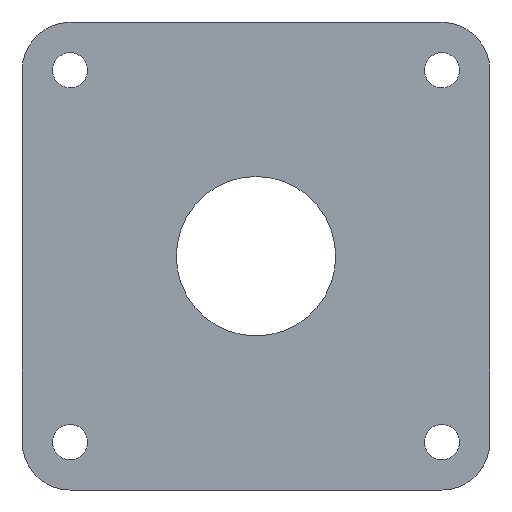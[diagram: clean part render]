
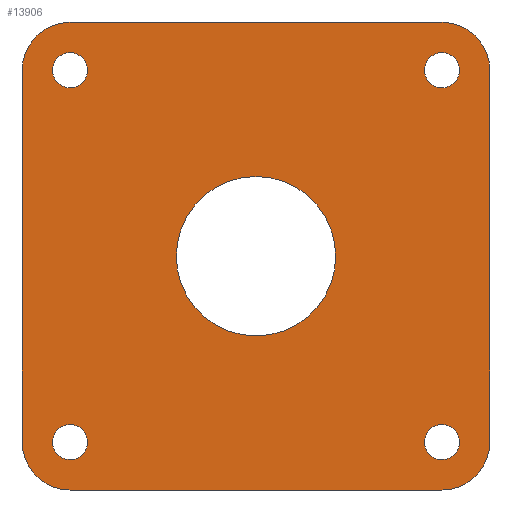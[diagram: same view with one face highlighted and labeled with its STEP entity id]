
A CAD part, left-side view. The second image highlights one B-rep face of the part: STEP entity #13906.
In plain terms, the highlighted planar face has unit normal (-1, 0, 0).
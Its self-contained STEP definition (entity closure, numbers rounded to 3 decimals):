
#12617=CARTESIAN_POINT('Line Origine',(-22.,0.,110.)) ;
#12621=CARTESIAN_POINT('Vertex',(-22.,87.5,110.)) ;
#12623=CARTESIAN_POINT('Vertex',(-22.,-87.5,110.)) ;
#13309=CARTESIAN_POINT('Axis2P3D Location',(-22.,87.5,87.5)) ;
#13313=CARTESIAN_POINT('Vertex',(-22.,110.,87.5)) ;
#13333=CARTESIAN_POINT('Axis2P3D Location',(-22.,-87.5,87.5)) ;
#13337=CARTESIAN_POINT('Vertex',(-22.,-110.,87.5)) ;
#13364=CARTESIAN_POINT('Line Origine',(-22.,-110.,0.)) ;
#13368=CARTESIAN_POINT('Vertex',(-22.,-110.,-87.5)) ;
#13422=CARTESIAN_POINT('Axis2P3D Location',(-22.,-87.5,-87.5)) ;
#13426=CARTESIAN_POINT('Vertex',(-22.,-87.5,-110.)) ;
#13446=CARTESIAN_POINT('Line Origine',(-22.,0.,-110.)) ;
#13450=CARTESIAN_POINT('Vertex',(-22.,87.5,-110.)) ;
#13474=CARTESIAN_POINT('Vertex',(-22.,-37.5,0.)) ;
#13477=CARTESIAN_POINT('Axis2P3D Location',(-22.,0.,0.)) ;
#13481=CARTESIAN_POINT('Vertex',(-22.,37.5,0.)) ;
#13496=CARTESIAN_POINT('Axis2P3D Location',(-22.,0.,0.)) ;
#13641=CARTESIAN_POINT('Vertex',(-22.,79.25,87.5)) ;
#13648=CARTESIAN_POINT('Vertex',(-22.,95.75,87.5)) ;
#13651=CARTESIAN_POINT('Axis2P3D Location',(-22.,87.5,87.5)) ;
#13663=CARTESIAN_POINT('Axis2P3D Location',(-22.,87.5,87.5)) ;
#13684=CARTESIAN_POINT('Vertex',(-22.,79.25,-87.5)) ;
#13691=CARTESIAN_POINT('Vertex',(-22.,95.75,-87.5)) ;
#13694=CARTESIAN_POINT('Axis2P3D Location',(-22.,87.5,-87.5)) ;
#13706=CARTESIAN_POINT('Axis2P3D Location',(-22.,87.5,-87.5)) ;
#13727=CARTESIAN_POINT('Vertex',(-22.,-79.25,-87.5)) ;
#13734=CARTESIAN_POINT('Vertex',(-22.,-95.75,-87.5)) ;
#13737=CARTESIAN_POINT('Axis2P3D Location',(-22.,-87.5,-87.5)) ;
#13749=CARTESIAN_POINT('Axis2P3D Location',(-22.,-87.5,-87.5)) ;
#13770=CARTESIAN_POINT('Vertex',(-22.,-79.25,87.5)) ;
#13777=CARTESIAN_POINT('Vertex',(-22.,-95.75,87.5)) ;
#13780=CARTESIAN_POINT('Axis2P3D Location',(-22.,-87.5,87.5)) ;
#13792=CARTESIAN_POINT('Axis2P3D Location',(-22.,-87.5,87.5)) ;
#13847=CARTESIAN_POINT('Axis2P3D Location',(-22.,87.5,-87.5)) ;
#13851=CARTESIAN_POINT('Vertex',(-22.,110.,-87.5)) ;
#13866=CARTESIAN_POINT('Axis2P3D Location',(-22.,0.,0.)) ;
#13871=CARTESIAN_POINT('Line Origine',(-22.,110.,0.)) ;
#12618=DIRECTION('Vector Direction',(0.,1.,0.)) ;
#13310=DIRECTION('Axis2P3D Direction',(1.,0.,0.)) ;
#13334=DIRECTION('Axis2P3D Direction',(1.,0.,0.)) ;
#13365=DIRECTION('Vector Direction',(0.,0.,-1.)) ;
#13423=DIRECTION('Axis2P3D Direction',(1.,0.,0.)) ;
#13447=DIRECTION('Vector Direction',(0.,-1.,0.)) ;
#13478=DIRECTION('Axis2P3D Direction',(-1.,-0.,0.)) ;
#13497=DIRECTION('Axis2P3D Direction',(-1.,-0.,0.)) ;
#13652=DIRECTION('Axis2P3D Direction',(1.,0.,0.)) ;
#13664=DIRECTION('Axis2P3D Direction',(1.,0.,0.)) ;
#13695=DIRECTION('Axis2P3D Direction',(1.,0.,0.)) ;
#13707=DIRECTION('Axis2P3D Direction',(1.,0.,0.)) ;
#13738=DIRECTION('Axis2P3D Direction',(1.,0.,0.)) ;
#13750=DIRECTION('Axis2P3D Direction',(1.,0.,0.)) ;
#13781=DIRECTION('Axis2P3D Direction',(1.,0.,0.)) ;
#13793=DIRECTION('Axis2P3D Direction',(1.,0.,0.)) ;
#13848=DIRECTION('Axis2P3D Direction',(1.,0.,0.)) ;
#13867=DIRECTION('Axis2P3D Direction',(1.,0.,0.)) ;
#13868=DIRECTION('Axis2P3D XDirection',(0.,1.,0.)) ;
#13872=DIRECTION('Vector Direction',(0.,0.,1.)) ;
#13311=AXIS2_PLACEMENT_3D('Circle Axis2P3D',#13309,#13310,$) ;
#13335=AXIS2_PLACEMENT_3D('Circle Axis2P3D',#13333,#13334,$) ;
#13424=AXIS2_PLACEMENT_3D('Circle Axis2P3D',#13422,#13423,$) ;
#13479=AXIS2_PLACEMENT_3D('Circle Axis2P3D',#13477,#13478,$) ;
#13498=AXIS2_PLACEMENT_3D('Circle Axis2P3D',#13496,#13497,$) ;
#13653=AXIS2_PLACEMENT_3D('Circle Axis2P3D',#13651,#13652,$) ;
#13665=AXIS2_PLACEMENT_3D('Circle Axis2P3D',#13663,#13664,$) ;
#13696=AXIS2_PLACEMENT_3D('Circle Axis2P3D',#13694,#13695,$) ;
#13708=AXIS2_PLACEMENT_3D('Circle Axis2P3D',#13706,#13707,$) ;
#13739=AXIS2_PLACEMENT_3D('Circle Axis2P3D',#13737,#13738,$) ;
#13751=AXIS2_PLACEMENT_3D('Circle Axis2P3D',#13749,#13750,$) ;
#13782=AXIS2_PLACEMENT_3D('Circle Axis2P3D',#13780,#13781,$) ;
#13794=AXIS2_PLACEMENT_3D('Circle Axis2P3D',#13792,#13793,$) ;
#13849=AXIS2_PLACEMENT_3D('Circle Axis2P3D',#13847,#13848,$) ;
#13869=AXIS2_PLACEMENT_3D('Plane Axis2P3D',#13866,#13867,#13868) ;
#13877=ORIENTED_EDGE('',*,*,#12625,.F.) ;
#13878=ORIENTED_EDGE('',*,*,#13315,.F.) ;
#13879=ORIENTED_EDGE('',*,*,#13875,.F.) ;
#13880=ORIENTED_EDGE('',*,*,#13853,.F.) ;
#13881=ORIENTED_EDGE('',*,*,#13452,.F.) ;
#13882=ORIENTED_EDGE('',*,*,#13428,.F.) ;
#13883=ORIENTED_EDGE('',*,*,#13370,.F.) ;
#13884=ORIENTED_EDGE('',*,*,#13339,.F.) ;
#13887=ORIENTED_EDGE('',*,*,#13500,.F.) ;
#13888=ORIENTED_EDGE('',*,*,#13483,.F.) ;
#13891=ORIENTED_EDGE('',*,*,#13784,.T.) ;
#13892=ORIENTED_EDGE('',*,*,#13796,.T.) ;
#13895=ORIENTED_EDGE('',*,*,#13741,.T.) ;
#13896=ORIENTED_EDGE('',*,*,#13753,.T.) ;
#13899=ORIENTED_EDGE('',*,*,#13698,.T.) ;
#13900=ORIENTED_EDGE('',*,*,#13710,.T.) ;
#13903=ORIENTED_EDGE('',*,*,#13655,.T.) ;
#13904=ORIENTED_EDGE('',*,*,#13667,.T.) ;
#13889=FACE_BOUND('',#13886,.T.) ;
#13893=FACE_BOUND('',#13890,.T.) ;
#13897=FACE_BOUND('',#13894,.T.) ;
#13901=FACE_BOUND('',#13898,.T.) ;
#13905=FACE_BOUND('',#13902,.T.) ;
#12619=VECTOR('Line Direction',#12618,1.) ;
#13366=VECTOR('Line Direction',#13365,1.) ;
#13448=VECTOR('Line Direction',#13447,1.) ;
#13873=VECTOR('Line Direction',#13872,1.) ;
#13906=ADVANCED_FACE('PartBody',(#13885,#13889,#13893,#13897,#13901,#13905),#13870,.F.) ;
#13312=CIRCLE('generated circle',#13311,22.5) ;
#13336=CIRCLE('generated circle',#13335,22.5) ;
#13425=CIRCLE('generated circle',#13424,22.5) ;
#13480=CIRCLE('generated circle',#13479,37.5) ;
#13499=CIRCLE('generated circle',#13498,37.5) ;
#13654=CIRCLE('generated circle',#13653,8.25) ;
#13666=CIRCLE('generated circle',#13665,8.25) ;
#13697=CIRCLE('generated circle',#13696,8.25) ;
#13709=CIRCLE('generated circle',#13708,8.25) ;
#13740=CIRCLE('generated circle',#13739,8.25) ;
#13752=CIRCLE('generated circle',#13751,8.25) ;
#13783=CIRCLE('generated circle',#13782,8.25) ;
#13795=CIRCLE('generated circle',#13794,8.25) ;
#13850=CIRCLE('generated circle',#13849,22.5) ;
#12625=EDGE_CURVE('',#12622,#12624,#12620,.F.) ;
#13315=EDGE_CURVE('',#13314,#12622,#13312,.T.) ;
#13339=EDGE_CURVE('',#12624,#13338,#13336,.T.) ;
#13370=EDGE_CURVE('',#13338,#13369,#13367,.T.) ;
#13428=EDGE_CURVE('',#13369,#13427,#13425,.T.) ;
#13452=EDGE_CURVE('',#13427,#13451,#13449,.F.) ;
#13483=EDGE_CURVE('',#13475,#13482,#13480,.T.) ;
#13500=EDGE_CURVE('',#13482,#13475,#13499,.T.) ;
#13655=EDGE_CURVE('',#13642,#13649,#13654,.T.) ;
#13667=EDGE_CURVE('',#13649,#13642,#13666,.T.) ;
#13698=EDGE_CURVE('',#13685,#13692,#13697,.T.) ;
#13710=EDGE_CURVE('',#13692,#13685,#13709,.T.) ;
#13741=EDGE_CURVE('',#13728,#13735,#13740,.T.) ;
#13753=EDGE_CURVE('',#13735,#13728,#13752,.T.) ;
#13784=EDGE_CURVE('',#13771,#13778,#13783,.T.) ;
#13796=EDGE_CURVE('',#13778,#13771,#13795,.T.) ;
#13853=EDGE_CURVE('',#13451,#13852,#13850,.T.) ;
#13875=EDGE_CURVE('',#13852,#13314,#13874,.T.) ;
#13876=EDGE_LOOP('',(#13877,#13878,#13879,#13880,#13881,#13882,#13883,#13884)) ;
#13886=EDGE_LOOP('',(#13887,#13888)) ;
#13890=EDGE_LOOP('',(#13891,#13892)) ;
#13894=EDGE_LOOP('',(#13895,#13896)) ;
#13898=EDGE_LOOP('',(#13899,#13900)) ;
#13902=EDGE_LOOP('',(#13903,#13904)) ;
#13885=FACE_OUTER_BOUND('',#13876,.T.) ;
#12620=LINE('Line',#12617,#12619) ;
#13367=LINE('Line',#13364,#13366) ;
#13449=LINE('Line',#13446,#13448) ;
#13874=LINE('Line',#13871,#13873) ;
#13870=PLANE('',#13869) ;
#12622=VERTEX_POINT('',#12621) ;
#12624=VERTEX_POINT('',#12623) ;
#13314=VERTEX_POINT('',#13313) ;
#13338=VERTEX_POINT('',#13337) ;
#13369=VERTEX_POINT('',#13368) ;
#13427=VERTEX_POINT('',#13426) ;
#13451=VERTEX_POINT('',#13450) ;
#13475=VERTEX_POINT('',#13474) ;
#13482=VERTEX_POINT('',#13481) ;
#13642=VERTEX_POINT('',#13641) ;
#13649=VERTEX_POINT('',#13648) ;
#13685=VERTEX_POINT('',#13684) ;
#13692=VERTEX_POINT('',#13691) ;
#13728=VERTEX_POINT('',#13727) ;
#13735=VERTEX_POINT('',#13734) ;
#13771=VERTEX_POINT('',#13770) ;
#13778=VERTEX_POINT('',#13777) ;
#13852=VERTEX_POINT('',#13851) ;
